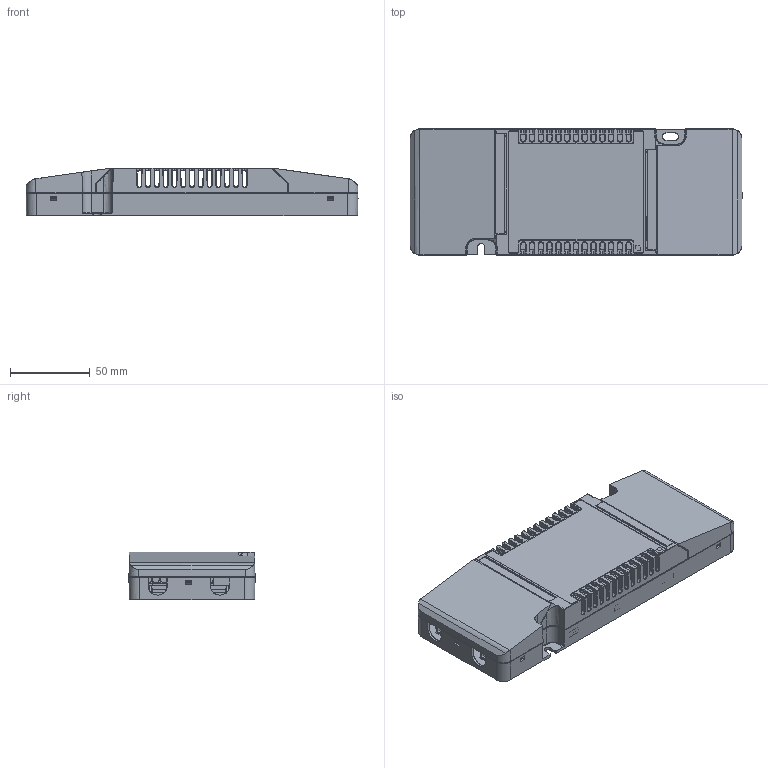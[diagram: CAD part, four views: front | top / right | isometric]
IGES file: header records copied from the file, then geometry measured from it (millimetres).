
Start section: SolidWorks IGES file using analytic representation for surfaces
Global section: file name: C:\Users\vuorinen_kari\Desktop\prj\P00010_LC_HYBRIDI\50w monsteri\LC51SE-CC-900-1400-LOOP.IGS; native system: SolidWorks 2014; preprocessor: SolidWorks 2014; author: vuorinen_kari; date: 180620.143736; units: millimetre
Bounding box: 207.93 x 79.11 x 30 mm (x, y, z)
Surface area: 140053.1 mm2 (no closed solid volume)
Topology: 0 solids, 0 shells, 3608 faces, 28290 edges, 28169 vertices
Faces by surface type: bspline 2231, revolution 1377
